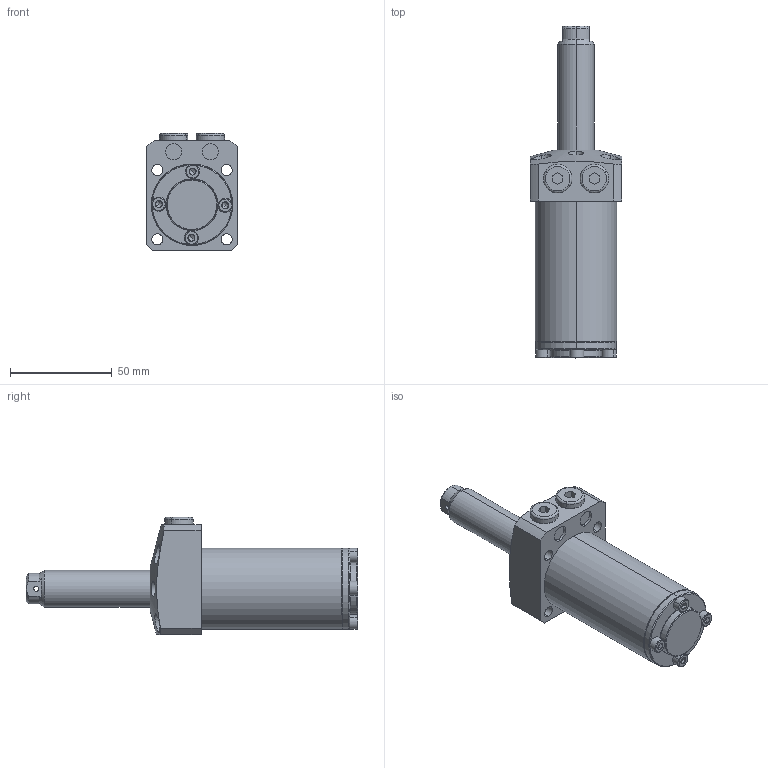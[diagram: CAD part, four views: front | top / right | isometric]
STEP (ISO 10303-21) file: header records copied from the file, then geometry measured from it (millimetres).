
FILE_DESCRIPTION (( 'STEP AP203' ), '1' );
FILE_NAME ('680400-CB-051.step', '2016-11-02T03:18:00', ( 'wxp' ), ( '' ), 'SwSTEP 2.0', 'SolidWorks 2011', '' );
FILE_SCHEMA (( 'CONFIG_CONTROL_DESIGN' ));
Length unit declared in the file: millimetre
Products named in the file (7): 680400-CB-051; 葩璃 680400-CA-51-4^680400-CB-051; 葩璃 680400-CA-51-3^680400-CB-051; 葩璃 680400-15-4^680400-CB-051; 葩璃 680400-15-3^680400-CB-051; 葩璃 680400-CB-51-2^680400-CB-051; 葩璃 680400-CA-51-1^680400-CB-051
Assembly tree (13 placements, depth 2):
  680400-CB-051
    葩璃 680400-CA-51-3^680400-CB-051  x4
    葩璃 680400-CB-51-2^680400-CB-051
    葩璃 680400-CA-51-1^680400-CB-051
    葩璃 680400-15-3^680400-CB-051
    葩璃 680400-15-4^680400-CB-051  x4
    葩璃 680400-CA-51-4^680400-CB-051  x2
Bounding box: 45 x 163 x 57.5 mm (x, y, z)
Volume: 147546.2 mm3; surface area: 35587.4 mm2
Topology: 13 solids, 13 shells, 419 faces, 809 edges, 436 vertices
Faces by surface type: plane 174, cone 120, cylinder 109, torus 16
Entity records: 7158 total; most frequent: CARTESIAN_POINT 1714, DIRECTION 1037, ORIENTED_EDGE 854, AXIS2_PLACEMENT_3D 433, EDGE_CURVE 427, VERTEX_POINT 254, EDGE_LOOP 249, CIRCLE 210
